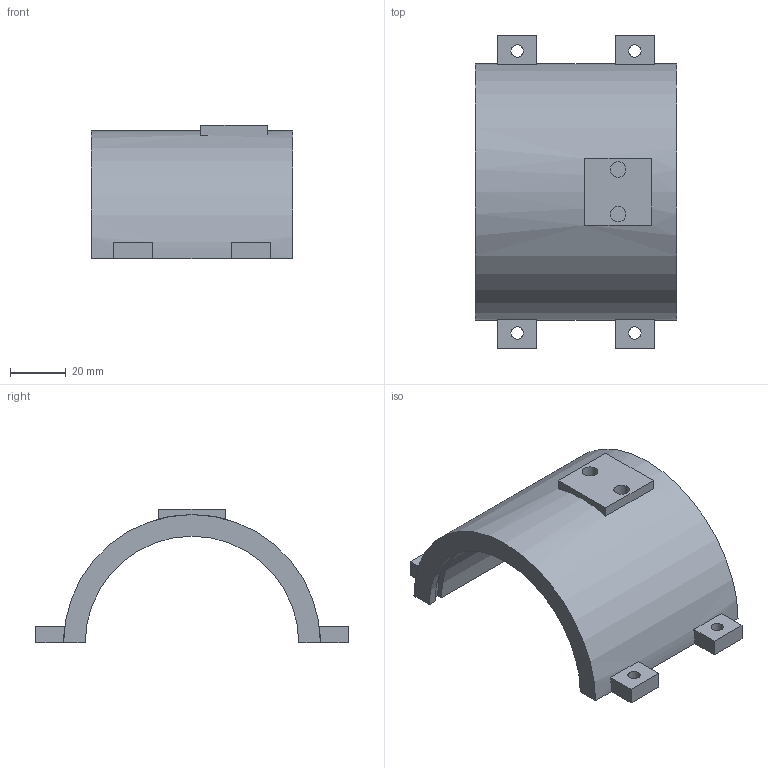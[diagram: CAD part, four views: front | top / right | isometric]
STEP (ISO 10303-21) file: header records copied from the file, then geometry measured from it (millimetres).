
FILE_DESCRIPTION(('Open CASCADE Model'),'2;1');
FILE_NAME('Open CASCADE Shape Model','2026-11-02T23:22:41',('Author'),( 'Open CASCADE'),'Open CASCADE STEP processor 7.9','Open CASCADE 7.9' ,'Unknown');
FILE_SCHEMA(('AUTOMOTIVE_DESIGN { 1 0 10303 214 1 1 1 1 }'));
Length unit declared in the file: millimetre
Products named in the file (1): Open CASCADE STEP translator 7.9 18
Bounding box: 72.2 x 112 x 48 mm (x, y, z)
Volume: 76727.6 mm3; surface area: 25583.2 mm2
Topology: 1 solids, 1 shells, 43 faces, 114 edges, 76 vertices
Faces by surface type: plane 31, cylinder 12
Full cylindrical faces by diameter (mm): 4.4 x4, 5.6 x2
Entity records: 2822 total; most frequent: CARTESIAN_POINT 634, DIRECTION 372, ORIENTED_EDGE 228, PCURVE 228, DEFINITIONAL_REPRESENTATION 228, LINE 198, VECTOR 198, EDGE_CURVE 114
